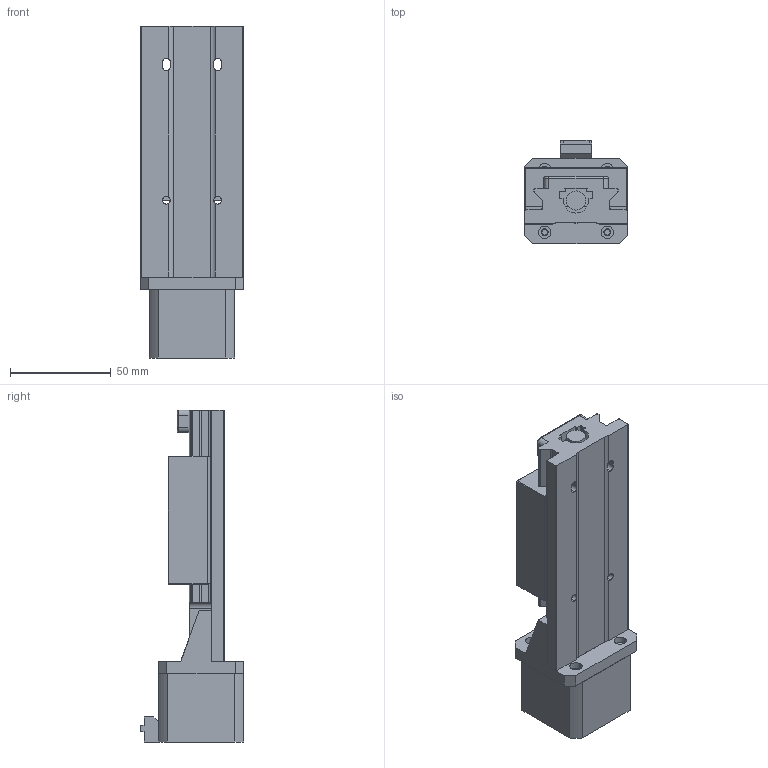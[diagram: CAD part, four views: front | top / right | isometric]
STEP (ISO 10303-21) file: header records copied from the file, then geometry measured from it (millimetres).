
FILE_DESCRIPTION (( 'STEP AP214' ), '1' );
FILE_NAME ('AMETEK-WGS06K-M-0050-01.00-001-R-43-0.9-2.33-SS-0000-CN-130-0-0.STEP', '2022-03-03T15:31:17', ( '' ), ( '' ), 'SwSTEP 2.0', 'SolidWorks 2021', '' );
FILE_SCHEMA (( 'AUTOMOTIVE_DESIGN' ));
Length unit declared in the file: inch
Products named in the file (5): Carriage; Rail; 43000_motor_SSConnector; AMETEK-WGS06K-M-0050-01.00-001-R-43-0.9-2.33-SS-0000-CN-130-0-0; MotorMount17_size 17
Assembly tree (4 placements, depth 2):
  AMETEK-WGS06K-M-0050-01.00-001-R-43-0.9-2.33-SS-0000-CN-130-0-0
    Rail
    Carriage
    43000_motor_SSConnector
    MotorMount17_size 17
Bounding box: 50.8 x 51.25 x 164.72 mm (x, y, z)
Volume: 198334 mm3; surface area: 62954.1 mm2
Topology: 6 solids, 6 shells, 361 faces, 986 edges, 646 vertices
Faces by surface type: plane 188, cylinder 161, cone 8, torus 4
Entity records: 12971 total; most frequent: CARTESIAN_POINT 2270, ORIENTED_EDGE 1956, DIRECTION 1952, EDGE_CURVE 978, AXIS2_PLACEMENT_3D 668, VERTEX_POINT 646, VECTOR 616, LINE 616
